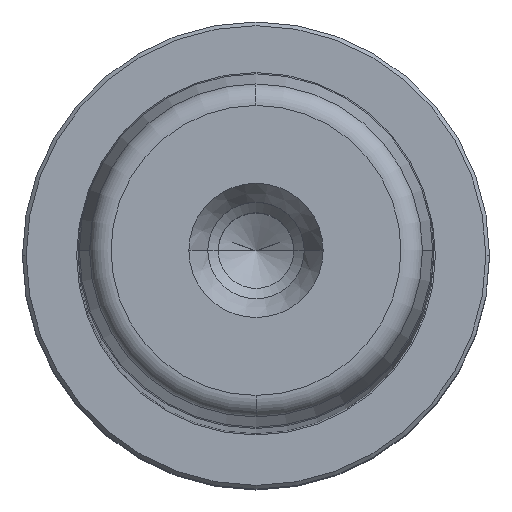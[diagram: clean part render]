
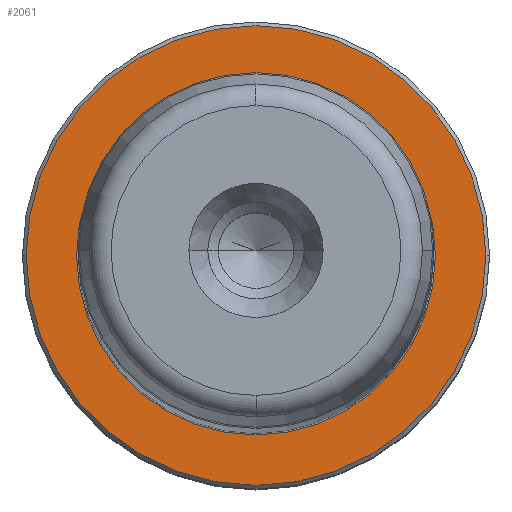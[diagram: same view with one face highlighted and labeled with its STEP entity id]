
A CAD part, top view. The second image highlights one B-rep face of the part: STEP entity #2061.
In plain terms, the highlighted planar face has unit normal (0, 0, 1).
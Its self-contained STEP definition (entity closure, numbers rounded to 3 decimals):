
#898=CARTESIAN_POINT('',(0.0,-24.2,5.));
#899=VERTEX_POINT('',#898);
#907=CARTESIAN_POINT('',(24.2,0.,5.0));
#908=VERTEX_POINT('',#907);
#909=CARTESIAN_POINT('',(0.0,0.,5.0));
#910=DIRECTION('',(0.0,0.0,1.0));
#911=DIRECTION('',(1.0,0.0,0.0));
#912=AXIS2_PLACEMENT_3D('',#909,#910,#911);
#913=CIRCLE('',#912,24.2);
#914=EDGE_CURVE('',#899,#908,#913,.T.);
#916=CARTESIAN_POINT('',(0.,24.2,5.));
#917=VERTEX_POINT('',#916);
#918=CARTESIAN_POINT('',(0.0,0.,5.0));
#919=DIRECTION('',(0.0,0.0,1.0));
#920=DIRECTION('',(1.0,0.0,0.0));
#921=AXIS2_PLACEMENT_3D('',#918,#919,#920);
#922=CIRCLE('',#921,24.2);
#923=EDGE_CURVE('',#908,#917,#922,.T.);
#950=CARTESIAN_POINT('',(31.0,0.,5.0));
#951=VERTEX_POINT('',#950);
#960=CARTESIAN_POINT('',(-31.,0.,5.));
#961=VERTEX_POINT('',#960);
#962=CARTESIAN_POINT('',(0.0,0.,5.0));
#963=DIRECTION('',(0.0,0.0,1.0));
#964=DIRECTION('',(1.0,0.0,0.0));
#965=AXIS2_PLACEMENT_3D('',#962,#963,#964);
#966=CIRCLE('',#965,31.0);
#967=EDGE_CURVE('',#961,#951,#966,.T.);
#2031=CARTESIAN_POINT('',(0.0,0.,5.0));
#2032=DIRECTION('',(0.0,0.0,1.0));
#2033=DIRECTION('',(1.0,0.0,0.0));
#2034=AXIS2_PLACEMENT_3D('',#2031,#2032,#2033);
#2035=CIRCLE('',#2034,31.0);
#2036=EDGE_CURVE('',#951,#961,#2035,.T.);
#2041=CARTESIAN_POINT('',(27.6,0.,5.0));
#2042=DIRECTION('',(0.0,0.0,1.0));
#2043=DIRECTION('',(0.0,-1.0,0.0));
#2044=AXIS2_PLACEMENT_3D('',#2041,#2042,#2043);
#2045=PLANE('',#2044);
#2046=ORIENTED_EDGE('',*,*,#2036,.T.);
#2047=ORIENTED_EDGE('',*,*,#967,.T.);
#2048=EDGE_LOOP('',(#2046,#2047));
#2049=FACE_OUTER_BOUND('',#2048,.T.);
#2050=ORIENTED_EDGE('',*,*,#923,.F.);
#2051=ORIENTED_EDGE('',*,*,#914,.F.);
#2052=CARTESIAN_POINT('',(0.0,0.,5.0));
#2053=DIRECTION('',(0.0,0.0,1.0));
#2054=DIRECTION('',(1.0,0.0,0.0));
#2055=AXIS2_PLACEMENT_3D('',#2052,#2053,#2054);
#2056=CIRCLE('',#2055,24.2);
#2057=EDGE_CURVE('',#917,#899,#2056,.T.);
#2058=ORIENTED_EDGE('',*,*,#2057,.F.);
#2059=EDGE_LOOP('',(#2050,#2051,#2058));
#2060=FACE_BOUND('',#2059,.T.);
#2061=ADVANCED_FACE('',(#2049,#2060),#2045,.T.);
